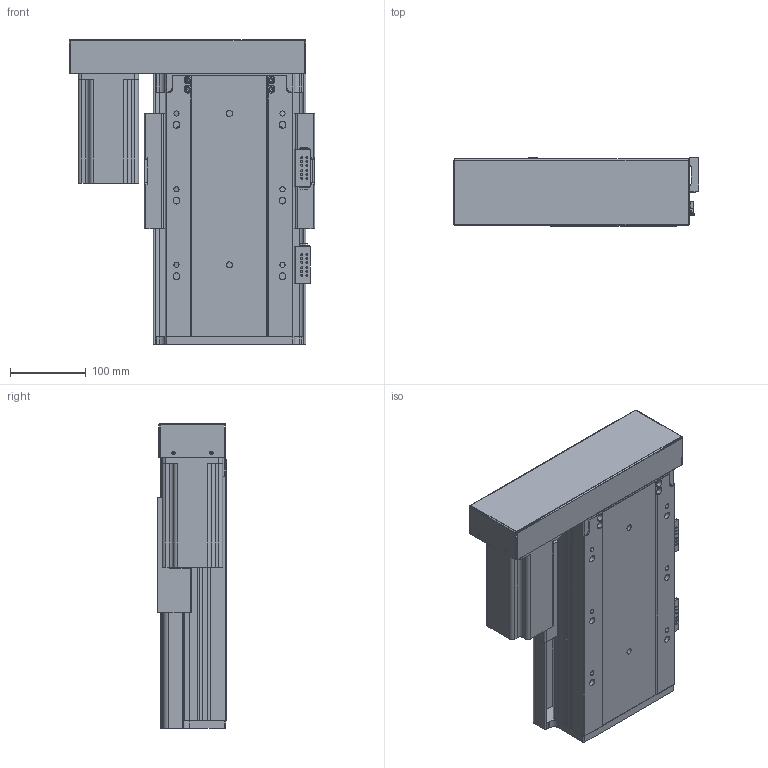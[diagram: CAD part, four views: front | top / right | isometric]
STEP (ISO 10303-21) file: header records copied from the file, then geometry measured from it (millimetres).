
FILE_DESCRIPTION (( 'STEP AP203' ), '1' );
FILE_NAME ('RY170FB-L2020-300-LK.SLDASM_100.step', '2021-02-23T03:02:15', ( '盈信电脑' ), ( '东莞市道滘镇水果街19号' ), 'SwSTEP 2.0', 'SolidWorks 2012', '' );
FILE_SCHEMA (( 'CONFIG_CONTROL_DESIGN' ));
Length unit declared in the file: millimetre
Products named in the file (16): RY170FB-L2020-300-LK.SLDASM_100; RY170FB-酘衵殏萇儂欶750W; RY140-674嫖萇耀輸; RY140FB-674嫖萇覜茼え; RY170FB-左右折电机安装板750W; RY170FB-300蛌殏奻裔-LK_100; RY140直线电机感应器674光电安装座; 覜茼ん674; RY170FB-綴裔啣; RY170FB-转折电机端支撑座(7002); RY170FB-铝滑块(25丝杆）; 怢湛750W萇儂ㄗ80遺ㄘ; 滅袉蝶18-10; RY170FB-300蛌殏倰第菁釱-LK_100; 滅袉蝶18-28
Assembly tree (18 placements, depth 3):
  RY170FB-L2020-300-LK.SLDASM_100
    RY170FB-300蛌殏倰第菁釱-LK_100
    滅袉蝶18-28
    滅袉蝶18-10
    RY170FB-转折电机端支撑座(7002)
    怢湛750W萇儂ㄗ80遺ㄘ
    RY170FB-铝滑块(25丝杆）
    RY170FB-綴裔啣
    RY170FB-300蛌殏奻裔-LK_100
    RY140-674嫖萇耀輸
      覜茼ん674  x2
      RY140直线电机感应器674光电安装座
    RY140-674嫖萇耀輸
      覜茼ん674
      RY140直线电机感应器674光电安装座
    RY140FB-674嫖萇覜茼え
    RY170FB-左右折电机安装板750W
    RY170FB-酘衵殏萇儂欶750W
Bounding box: 323.95 x 90.5 x 402.7 mm (x, y, z)
Volume: 3795772.9 mm3; surface area: 1006744.3 mm2
Topology: 16 solids, 16 shells, 1377 faces, 3806 edges, 2428 vertices
Faces by surface type: cylinder 671, plane 582, cone 116, bspline 8
Entity records: 41759 total; most frequent: CARTESIAN_POINT 9044, DIRECTION 6490, ORIENTED_EDGE 6432, EDGE_CURVE 3216, AXIS2_PLACEMENT_3D 2336, VERTEX_POINT 2108, LINE 1818, VECTOR 1818
